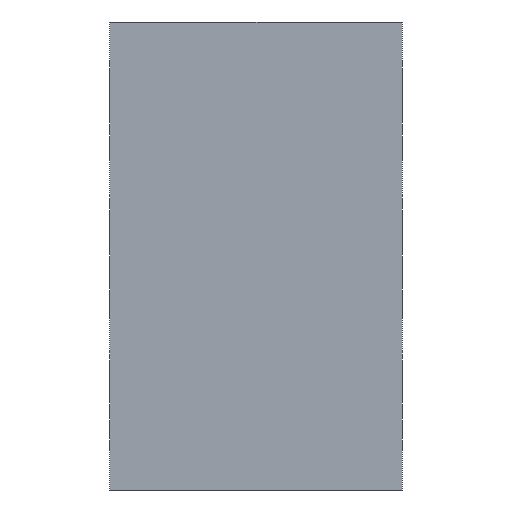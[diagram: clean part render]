
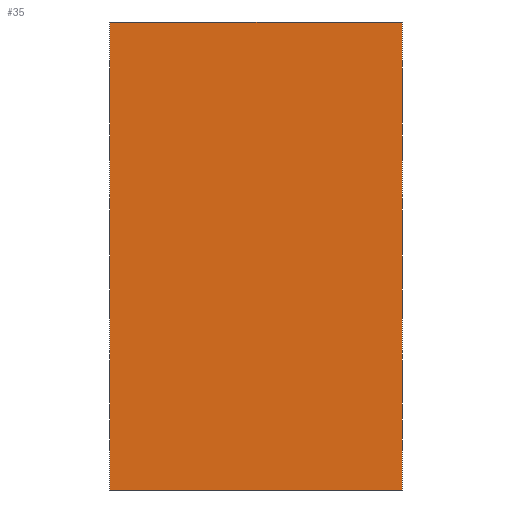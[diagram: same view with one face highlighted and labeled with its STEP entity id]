
A CAD part, left-side view. The second image highlights one B-rep face of the part: STEP entity #35.
In plain terms, the highlighted planar face has unit normal (-1, 0, 0).
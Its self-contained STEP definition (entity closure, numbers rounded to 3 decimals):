
#35 = ADVANCED_FACE('',(#36),#50,.F.);
#36 = FACE_BOUND('',#37,.F.);
#37 = EDGE_LOOP('',(#38,#73,#101,#129));
#38 = ORIENTED_EDGE('',*,*,#39,.F.);
#39 = EDGE_CURVE('',#40,#42,#44,.T.);
#40 = VERTEX_POINT('',#41);
#41 = CARTESIAN_POINT('',(-55.,-5.,-8.));
#42 = VERTEX_POINT('',#43);
#43 = CARTESIAN_POINT('',(-55.,-5.,8.));
#44 = SURFACE_CURVE('',#45,(#49,#61),.PCURVE_S1.);
#45 = LINE('',#46,#47);
#46 = CARTESIAN_POINT('',(-55.,-5.,-8.));
#47 = VECTOR('',#48,1.);
#48 = DIRECTION('',(0.,0.,1.));
#49 = PCURVE('',#50,#55);
#50 = PLANE('',#51);
#51 = AXIS2_PLACEMENT_3D('',#52,#53,#54);
#52 = CARTESIAN_POINT('',(-55.,-5.,-8.));
#53 = DIRECTION('',(1.,0.,-0.));
#54 = DIRECTION('',(0.,0.,1.));
#55 = DEFINITIONAL_REPRESENTATION('',(#56),#60);
#56 = LINE('',#57,#58);
#57 = CARTESIAN_POINT('',(0.,0.));
#58 = VECTOR('',#59,1.);
#59 = DIRECTION('',(1.,0.));
#60 = ( GEOMETRIC_REPRESENTATION_CONTEXT(2) 
PARAMETRIC_REPRESENTATION_CONTEXT() REPRESENTATION_CONTEXT('2D SPACE',''
  ) );
#61 = PCURVE('',#62,#67);
#62 = PLANE('',#63);
#63 = AXIS2_PLACEMENT_3D('',#64,#65,#66);
#64 = CARTESIAN_POINT('',(-55.,-5.,-8.));
#65 = DIRECTION('',(-0.,1.,0.));
#66 = DIRECTION('',(0.,0.,1.));
#67 = DEFINITIONAL_REPRESENTATION('',(#68),#72);
#68 = LINE('',#69,#70);
#69 = CARTESIAN_POINT('',(0.,0.));
#70 = VECTOR('',#71,1.);
#71 = DIRECTION('',(1.,0.));
#72 = ( GEOMETRIC_REPRESENTATION_CONTEXT(2) 
PARAMETRIC_REPRESENTATION_CONTEXT() REPRESENTATION_CONTEXT('2D SPACE',''
  ) );
#73 = ORIENTED_EDGE('',*,*,#74,.T.);
#74 = EDGE_CURVE('',#40,#75,#77,.T.);
#75 = VERTEX_POINT('',#76);
#76 = CARTESIAN_POINT('',(-55.,5.,-8.));
#77 = SURFACE_CURVE('',#78,(#82,#89),.PCURVE_S1.);
#78 = LINE('',#79,#80);
#79 = CARTESIAN_POINT('',(-55.,-5.,-8.));
#80 = VECTOR('',#81,1.);
#81 = DIRECTION('',(-0.,1.,0.));
#82 = PCURVE('',#50,#83);
#83 = DEFINITIONAL_REPRESENTATION('',(#84),#88);
#84 = LINE('',#85,#86);
#85 = CARTESIAN_POINT('',(0.,0.));
#86 = VECTOR('',#87,1.);
#87 = DIRECTION('',(0.,-1.));
#88 = ( GEOMETRIC_REPRESENTATION_CONTEXT(2) 
PARAMETRIC_REPRESENTATION_CONTEXT() REPRESENTATION_CONTEXT('2D SPACE',''
  ) );
#89 = PCURVE('',#90,#95);
#90 = PLANE('',#91);
#91 = AXIS2_PLACEMENT_3D('',#92,#93,#94);
#92 = CARTESIAN_POINT('',(-55.,-5.,-8.));
#93 = DIRECTION('',(0.,0.,1.));
#94 = DIRECTION('',(1.,0.,-0.));
#95 = DEFINITIONAL_REPRESENTATION('',(#96),#100);
#96 = LINE('',#97,#98);
#97 = CARTESIAN_POINT('',(0.,0.));
#98 = VECTOR('',#99,1.);
#99 = DIRECTION('',(0.,1.));
#100 = ( GEOMETRIC_REPRESENTATION_CONTEXT(2) 
PARAMETRIC_REPRESENTATION_CONTEXT() REPRESENTATION_CONTEXT('2D SPACE',''
  ) );
#101 = ORIENTED_EDGE('',*,*,#102,.T.);
#102 = EDGE_CURVE('',#75,#103,#105,.T.);
#103 = VERTEX_POINT('',#104);
#104 = CARTESIAN_POINT('',(-55.,5.,8.));
#105 = SURFACE_CURVE('',#106,(#110,#117),.PCURVE_S1.);
#106 = LINE('',#107,#108);
#107 = CARTESIAN_POINT('',(-55.,5.,-8.));
#108 = VECTOR('',#109,1.);
#109 = DIRECTION('',(0.,0.,1.));
#110 = PCURVE('',#50,#111);
#111 = DEFINITIONAL_REPRESENTATION('',(#112),#116);
#112 = LINE('',#113,#114);
#113 = CARTESIAN_POINT('',(0.,-10.));
#114 = VECTOR('',#115,1.);
#115 = DIRECTION('',(1.,0.));
#116 = ( GEOMETRIC_REPRESENTATION_CONTEXT(2) 
PARAMETRIC_REPRESENTATION_CONTEXT() REPRESENTATION_CONTEXT('2D SPACE',''
  ) );
#117 = PCURVE('',#118,#123);
#118 = PLANE('',#119);
#119 = AXIS2_PLACEMENT_3D('',#120,#121,#122);
#120 = CARTESIAN_POINT('',(-55.,5.,-8.));
#121 = DIRECTION('',(-0.,1.,0.));
#122 = DIRECTION('',(0.,0.,1.));
#123 = DEFINITIONAL_REPRESENTATION('',(#124),#128);
#124 = LINE('',#125,#126);
#125 = CARTESIAN_POINT('',(0.,0.));
#126 = VECTOR('',#127,1.);
#127 = DIRECTION('',(1.,0.));
#128 = ( GEOMETRIC_REPRESENTATION_CONTEXT(2) 
PARAMETRIC_REPRESENTATION_CONTEXT() REPRESENTATION_CONTEXT('2D SPACE',''
  ) );
#129 = ORIENTED_EDGE('',*,*,#130,.F.);
#130 = EDGE_CURVE('',#42,#103,#131,.T.);
#131 = SURFACE_CURVE('',#132,(#136,#143),.PCURVE_S1.);
#132 = LINE('',#133,#134);
#133 = CARTESIAN_POINT('',(-55.,-5.,8.));
#134 = VECTOR('',#135,1.);
#135 = DIRECTION('',(-0.,1.,0.));
#136 = PCURVE('',#50,#137);
#137 = DEFINITIONAL_REPRESENTATION('',(#138),#142);
#138 = LINE('',#139,#140);
#139 = CARTESIAN_POINT('',(16.,0.));
#140 = VECTOR('',#141,1.);
#141 = DIRECTION('',(0.,-1.));
#142 = ( GEOMETRIC_REPRESENTATION_CONTEXT(2) 
PARAMETRIC_REPRESENTATION_CONTEXT() REPRESENTATION_CONTEXT('2D SPACE',''
  ) );
#143 = PCURVE('',#144,#149);
#144 = PLANE('',#145);
#145 = AXIS2_PLACEMENT_3D('',#146,#147,#148);
#146 = CARTESIAN_POINT('',(-55.,-5.,8.));
#147 = DIRECTION('',(0.,0.,1.));
#148 = DIRECTION('',(1.,0.,-0.));
#149 = DEFINITIONAL_REPRESENTATION('',(#150),#154);
#150 = LINE('',#151,#152);
#151 = CARTESIAN_POINT('',(0.,0.));
#152 = VECTOR('',#153,1.);
#153 = DIRECTION('',(0.,1.));
#154 = ( GEOMETRIC_REPRESENTATION_CONTEXT(2) 
PARAMETRIC_REPRESENTATION_CONTEXT() REPRESENTATION_CONTEXT('2D SPACE',''
  ) );
